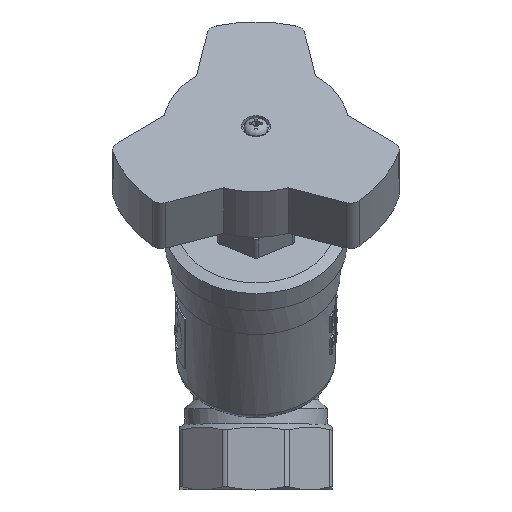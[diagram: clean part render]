
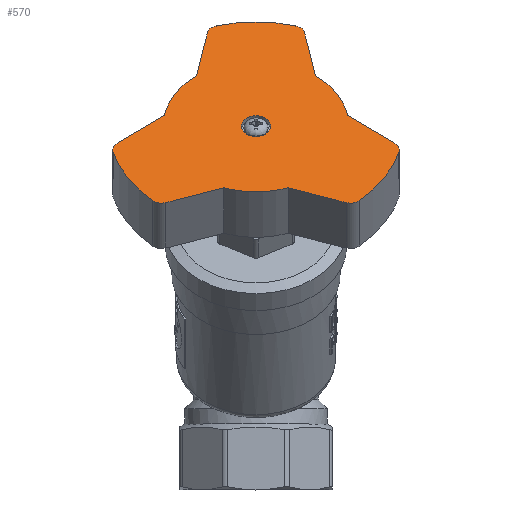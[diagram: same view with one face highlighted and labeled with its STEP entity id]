
A CAD part, top view. The second image highlights one B-rep face of the part: STEP entity #570.
In plain terms, the highlighted planar face has unit normal (0, 0.707, 0.707) as drawn and (0, 1, 0) by its records, which use the part's own axes.
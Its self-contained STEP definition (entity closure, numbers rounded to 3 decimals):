
#570=ADVANCED_FACE('',(#4198,#4200),#4202,.T.);
#4198=FACE_BOUND('',#4199,.T.);
#4199=EDGE_LOOP('',(#7216,#7217,#7218,#7219,#7220,#7221,#7222,#7223,#7224,#7225,
#7226,#7227,#7228,#7229,#7230,#7231,#7232,#7233));
#4200=FACE_BOUND('',#4201,.T.);
#4201=EDGE_LOOP('',(#7234));
#4202=PLANE('',#4203);
#4203=AXIS2_PLACEMENT_3D('',#4204,#4205,#4206);
#4204=CARTESIAN_POINT('',(0.,20.,0.));
#4205=DIRECTION('',(0.,1.,0.));
#4206=DIRECTION('',(-1.,0.,0.));
#7216=ORIENTED_EDGE('',*,*,#8513,.F.);
#7217=ORIENTED_EDGE('',*,*,#8514,.T.);
#7218=ORIENTED_EDGE('',*,*,#8515,.T.);
#7219=ORIENTED_EDGE('',*,*,#8516,.T.);
#7220=ORIENTED_EDGE('',*,*,#8517,.F.);
#7221=ORIENTED_EDGE('',*,*,#8518,.T.);
#7222=ORIENTED_EDGE('',*,*,#8519,.F.);
#7223=ORIENTED_EDGE('',*,*,#8520,.T.);
#7224=ORIENTED_EDGE('',*,*,#8521,.T.);
#7225=ORIENTED_EDGE('',*,*,#8522,.T.);
#7226=ORIENTED_EDGE('',*,*,#8523,.F.);
#7227=ORIENTED_EDGE('',*,*,#8524,.T.);
#7228=ORIENTED_EDGE('',*,*,#8525,.F.);
#7229=ORIENTED_EDGE('',*,*,#8526,.T.);
#7230=ORIENTED_EDGE('',*,*,#8527,.T.);
#7231=ORIENTED_EDGE('',*,*,#8528,.T.);
#7232=ORIENTED_EDGE('',*,*,#8529,.F.);
#7233=ORIENTED_EDGE('',*,*,#8530,.T.);
#7234=ORIENTED_EDGE('',*,*,#8511,.T.);
#8511=EDGE_CURVE('',#10407,#10407,#10408,.F.);
#8513=EDGE_CURVE('',#10411,#10412,#10413,.F.);
#8514=EDGE_CURVE('',#10411,#10414,#10415,.T.);
#8515=EDGE_CURVE('',#10414,#10416,#10417,.T.);
#8516=EDGE_CURVE('',#10416,#10418,#10419,.T.);
#8517=EDGE_CURVE('',#10420,#10418,#10421,.F.);
#8518=EDGE_CURVE('',#10420,#10422,#10423,.T.);
#8519=EDGE_CURVE('',#10424,#10422,#10425,.F.);
#8520=EDGE_CURVE('',#10424,#10426,#10427,.T.);
#8521=EDGE_CURVE('',#10426,#10428,#10429,.T.);
#8522=EDGE_CURVE('',#10428,#10430,#10431,.T.);
#8523=EDGE_CURVE('',#10432,#10430,#10433,.F.);
#8524=EDGE_CURVE('',#10432,#10434,#10435,.T.);
#8525=EDGE_CURVE('',#10436,#10434,#10437,.F.);
#8526=EDGE_CURVE('',#10436,#10438,#10439,.T.);
#8527=EDGE_CURVE('',#10438,#10440,#10441,.T.);
#8528=EDGE_CURVE('',#10440,#10442,#10443,.T.);
#8529=EDGE_CURVE('',#10444,#10442,#10445,.F.);
#8530=EDGE_CURVE('',#10444,#10412,#10446,.T.);
#10407=VERTEX_POINT('',#24490);
#10408=CIRCLE('',#24491,4.6);
#10411=VERTEX_POINT('',#24500);
#10412=VERTEX_POINT('',#24501);
#10413=CIRCLE('',#24502,4.);
#10414=VERTEX_POINT('',#24506);
#10415=LINE('',#24507,#24508);
#10416=VERTEX_POINT('',#24510);
#10417=CIRCLE('',#24511,29.);
#10418=VERTEX_POINT('',#24515);
#10419=LINE('',#24516,#24517);
#10420=VERTEX_POINT('',#24519);
#10421=CIRCLE('',#24520,4.);
#10422=VERTEX_POINT('',#24524);
#10423=CIRCLE('',#24525,46.);
#10424=VERTEX_POINT('',#24529);
#10425=CIRCLE('',#24530,4.);
#10426=VERTEX_POINT('',#24534);
#10427=LINE('',#24535,#24536);
#10428=VERTEX_POINT('',#24538);
#10429=CIRCLE('',#24539,29.);
#10430=VERTEX_POINT('',#24543);
#10431=LINE('',#24544,#24545);
#10432=VERTEX_POINT('',#24547);
#10433=CIRCLE('',#24548,4.);
#10434=VERTEX_POINT('',#24552);
#10435=CIRCLE('',#24553,46.);
#10436=VERTEX_POINT('',#24557);
#10437=CIRCLE('',#24558,4.);
#10438=VERTEX_POINT('',#24562);
#10439=LINE('',#24563,#24564);
#10440=VERTEX_POINT('',#24566);
#10441=CIRCLE('',#24567,29.);
#10442=VERTEX_POINT('',#24571);
#10443=LINE('',#24572,#24573);
#10444=VERTEX_POINT('',#24575);
#10445=CIRCLE('',#24576,4.);
#10446=CIRCLE('',#24580,46.);
#24490=CARTESIAN_POINT('',(-4.6,20.,0.));
#24491=AXIS2_PLACEMENT_3D('',#24492,#24493,#24494);
#24492=CARTESIAN_POINT('',(0.,20.,0.));
#24493=DIRECTION('',(0.,1.,0.));
#24494=DIRECTION('',(-1.,0.,0.));
#24500=CARTESIAN_POINT('',(28.058,20.,-33.727));
#24501=CARTESIAN_POINT('',(32.228,20.,-32.823));
#24502=AXIS2_PLACEMENT_3D('',#24503,#24504,#24505);
#24503=CARTESIAN_POINT('',(29.426,20.,-29.969));
#24504=DIRECTION('',(0.,1.,0.));
#24505=DIRECTION('',(0.701,0.,-0.714));
#24506=CARTESIAN_POINT('',(10.091,20.,-27.188));
#24507=CARTESIAN_POINT('',(28.058,20.,-33.727));
#24508=VECTOR('',#24509,1.);
#24509=DIRECTION('',(-0.94,0.,0.342));
#24510=CARTESIAN_POINT('',(-10.091,20.,-27.188));
#24511=AXIS2_PLACEMENT_3D('',#24512,#24513,#24514);
#24512=CARTESIAN_POINT('',(0.,20.,0.));
#24513=DIRECTION('',(0.,1.,0.));
#24514=DIRECTION('',(0.348,0.,-0.938));
#24515=CARTESIAN_POINT('',(-28.058,20.,-33.727));
#24516=CARTESIAN_POINT('',(-10.091,20.,-27.188));
#24517=VECTOR('',#24518,1.);
#24518=DIRECTION('',(-0.94,0.,-0.342));
#24519=CARTESIAN_POINT('',(-32.228,20.,-32.823));
#24520=AXIS2_PLACEMENT_3D('',#24521,#24522,#24523);
#24521=CARTESIAN_POINT('',(-29.426,20.,-29.969));
#24522=DIRECTION('',(0.,1.,0.));
#24523=DIRECTION('',(0.342,0.,-0.94));
#24524=CARTESIAN_POINT('',(-44.54,20.,-11.499));
#24525=AXIS2_PLACEMENT_3D('',#24526,#24527,#24528);
#24526=CARTESIAN_POINT('',(0.,20.,0.));
#24527=DIRECTION('',(0.,1.,0.));
#24528=DIRECTION('',(-0.701,0.,-0.714));
#24529=CARTESIAN_POINT('',(-43.238,20.,-7.435));
#24530=AXIS2_PLACEMENT_3D('',#24531,#24532,#24533);
#24531=CARTESIAN_POINT('',(-40.667,20.,-10.499));
#24532=DIRECTION('',(0.,1.,0.));
#24533=DIRECTION('',(-0.968,0.,-0.25));
#24534=CARTESIAN_POINT('',(-28.591,20.,4.855));
#24535=CARTESIAN_POINT('',(-43.238,20.,-7.435));
#24536=VECTOR('',#24537,1.);
#24537=DIRECTION('',(0.766,0.,0.643));
#24538=CARTESIAN_POINT('',(-18.5,20.,22.333));
#24539=AXIS2_PLACEMENT_3D('',#24540,#24541,#24542);
#24540=CARTESIAN_POINT('',(0.,20.,0.));
#24541=DIRECTION('',(0.,1.,0.));
#24542=DIRECTION('',(-0.986,0.,0.167));
#24543=CARTESIAN_POINT('',(-15.18,20.,41.162));
#24544=CARTESIAN_POINT('',(-18.5,20.,22.333));
#24545=VECTOR('',#24546,1.);
#24546=DIRECTION('',(0.174,0.,0.985));
#24547=CARTESIAN_POINT('',(-12.311,20.,44.322));
#24548=AXIS2_PLACEMENT_3D('',#24549,#24550,#24551);
#24549=CARTESIAN_POINT('',(-11.241,20.,40.468));
#24550=DIRECTION('',(0.,1.,0.));
#24551=DIRECTION('',(-0.985,0.,0.174));
#24552=CARTESIAN_POINT('',(12.311,20.,44.322));
#24553=AXIS2_PLACEMENT_3D('',#24554,#24555,#24556);
#24554=CARTESIAN_POINT('',(0.,20.,0.));
#24555=DIRECTION('',(0.,1.,0.));
#24556=DIRECTION('',(-0.268,0.,0.964));
#24557=CARTESIAN_POINT('',(15.18,20.,41.162));
#24558=AXIS2_PLACEMENT_3D('',#24559,#24560,#24561);
#24559=CARTESIAN_POINT('',(11.241,20.,40.468));
#24560=DIRECTION('',(0.,1.,0.));
#24561=DIRECTION('',(0.268,0.,0.964));
#24562=CARTESIAN_POINT('',(18.5,20.,22.333));
#24563=CARTESIAN_POINT('',(15.18,20.,41.162));
#24564=VECTOR('',#24565,1.);
#24565=DIRECTION('',(0.174,0.,-0.985));
#24566=CARTESIAN_POINT('',(28.591,20.,4.855));
#24567=AXIS2_PLACEMENT_3D('',#24568,#24569,#24570);
#24568=CARTESIAN_POINT('',(0.,20.,0.));
#24569=DIRECTION('',(0.,1.,0.));
#24570=DIRECTION('',(0.638,0.,0.77));
#24571=CARTESIAN_POINT('',(43.238,20.,-7.435));
#24572=CARTESIAN_POINT('',(28.591,20.,4.855));
#24573=VECTOR('',#24574,1.);
#24574=DIRECTION('',(0.766,0.,-0.643));
#24575=CARTESIAN_POINT('',(44.54,20.,-11.499));
#24576=AXIS2_PLACEMENT_3D('',#24577,#24578,#24579);
#24577=CARTESIAN_POINT('',(40.667,20.,-10.499));
#24578=DIRECTION('',(0.,1.,0.));
#24579=DIRECTION('',(0.643,0.,0.766));
#24580=AXIS2_PLACEMENT_3D('',#24581,#24582,#24583);
#24581=CARTESIAN_POINT('',(0.,20.,0.));
#24582=DIRECTION('',(0.,1.,0.));
#24583=DIRECTION('',(0.968,0.,-0.25));
